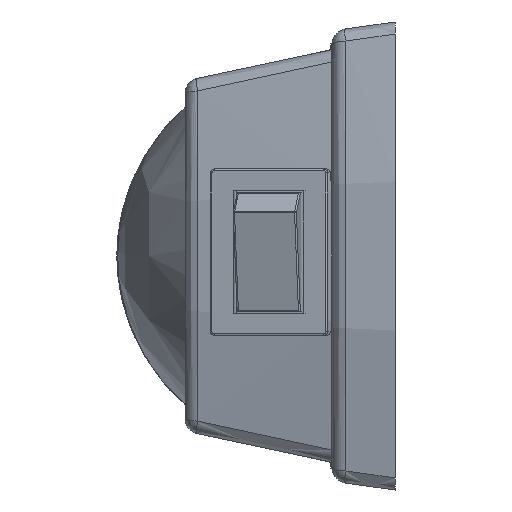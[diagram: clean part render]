
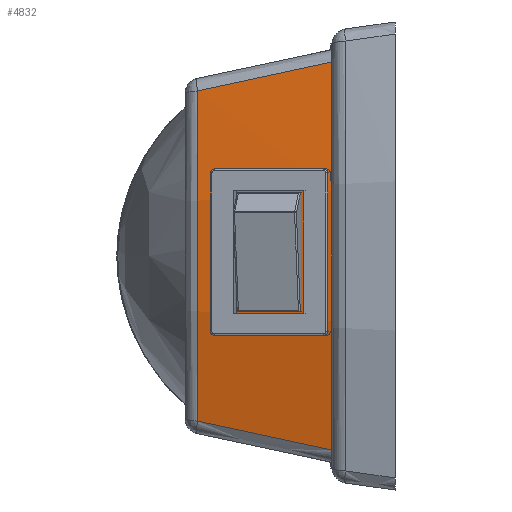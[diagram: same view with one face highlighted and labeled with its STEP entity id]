
A CAD part, left-side view. The second image highlights one B-rep face of the part: STEP entity #4832.
In plain terms, the highlighted face is a revolution surface.
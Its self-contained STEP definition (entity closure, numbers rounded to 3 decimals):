
#4808=AXIS2_PLACEMENT_3D('Circle Axis2P3D',#4806,#4807,$) ;
#4823=AXIS2_PLACEMENT_3D('Circle Axis2P3D',#4821,#4822,$) ;
#4790=CARTESIAN_POINT('Control Point',(-72.128,4.614,112.404)) ;
#4791=CARTESIAN_POINT('Control Point',(-72.128,-12.302,116.)) ;
#4792=CARTESIAN_POINT('Axis1P Location',(-72.128,987.698,0.)) ;
#4797=CARTESIAN_POINT('Control Point',(-185.521,-12.302,24.456)) ;
#4798=CARTESIAN_POINT('Control Point',(-184.556,-6.66,23.241)) ;
#4799=CARTESIAN_POINT('Control Point',(-183.579,-1.021,22.025)) ;
#4800=CARTESIAN_POINT('Control Point',(-182.589,4.614,20.81)) ;
#4801=CARTESIAN_POINT('Vertex',(-185.521,-12.302,24.456)) ;
#4803=CARTESIAN_POINT('Vertex',(-182.589,4.614,20.81)) ;
#4806=CARTESIAN_POINT('Axis2P3D Location',(-72.128,-12.302,0.)) ;
#4810=CARTESIAN_POINT('Vertex',(-185.521,-12.302,-24.456)) ;
#4814=CARTESIAN_POINT('Control Point',(-182.589,4.614,-20.81)) ;
#4815=CARTESIAN_POINT('Control Point',(-183.579,-1.021,-22.025)) ;
#4816=CARTESIAN_POINT('Control Point',(-184.556,-6.66,-23.241)) ;
#4817=CARTESIAN_POINT('Control Point',(-185.521,-12.302,-24.456)) ;
#4818=CARTESIAN_POINT('Vertex',(-182.589,4.614,-20.81)) ;
#4821=CARTESIAN_POINT('Axis2P3D Location',(-72.128,4.614,0.)) ;
#4793=DIRECTION('Axis1P Direction',(0.,-1.,0.)) ;
#4807=DIRECTION('Axis2P3D Direction',(0.,-1.,0.)) ;
#4822=DIRECTION('Axis2P3D Direction',(0.,-1.,0.)) ;
#4794=AXIS1_PLACEMENT('Revolution Surface Axis1P',#4792,#4793) ;
#4827=ORIENTED_EDGE('',*,*,#4805,.F.) ;
#4828=ORIENTED_EDGE('',*,*,#4812,.F.) ;
#4829=ORIENTED_EDGE('',*,*,#4820,.F.) ;
#4830=ORIENTED_EDGE('',*,*,#4825,.F.) ;
#4832=ADVANCED_FACE('Surface.35',(#4831),#4795,.F.) ;
#4789=B_SPLINE_CURVE_WITH_KNOTS('',1,(#4790,#4791),.UNSPECIFIED.,.F.,.U.,(2,2),(-8.647,8.647),.UNSPECIFIED.) ;
#4796=B_SPLINE_CURVE_WITH_KNOTS('',3,(#4797,#4798,#4799,#4800),.UNSPECIFIED.,.F.,.U.,(4,4),(0.,24.821),.UNSPECIFIED.) ;
#4813=B_SPLINE_CURVE_WITH_KNOTS('',3,(#4814,#4815,#4816,#4817),.UNSPECIFIED.,.F.,.U.,(4,4),(0.,24.821),.UNSPECIFIED.) ;
#4809=CIRCLE('generated circle',#4808,116.) ;
#4824=CIRCLE('generated circle',#4823,112.404) ;
#4805=EDGE_CURVE('',#4802,#4804,#4796,.T.) ;
#4812=EDGE_CURVE('',#4811,#4802,#4809,.F.) ;
#4820=EDGE_CURVE('',#4819,#4811,#4813,.T.) ;
#4825=EDGE_CURVE('',#4804,#4819,#4824,.T.) ;
#4826=EDGE_LOOP('',(#4827,#4828,#4829,#4830)) ;
#4831=FACE_OUTER_BOUND('',#4826,.T.) ;
#4795=SURFACE_OF_REVOLUTION('Surface of Revolution',#4789,#4794) ;
#4802=VERTEX_POINT('',#4801) ;
#4804=VERTEX_POINT('',#4803) ;
#4811=VERTEX_POINT('',#4810) ;
#4819=VERTEX_POINT('',#4818) ;
